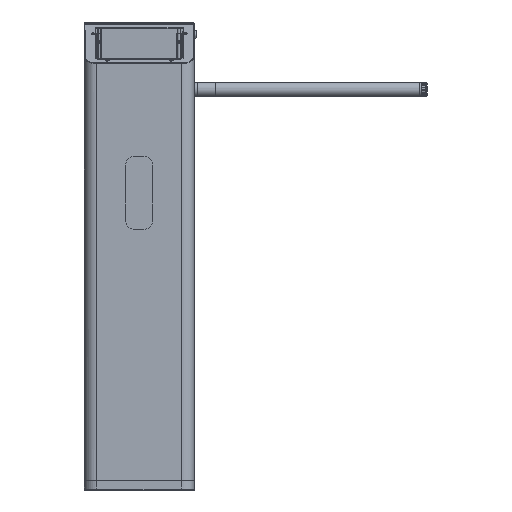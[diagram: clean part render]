
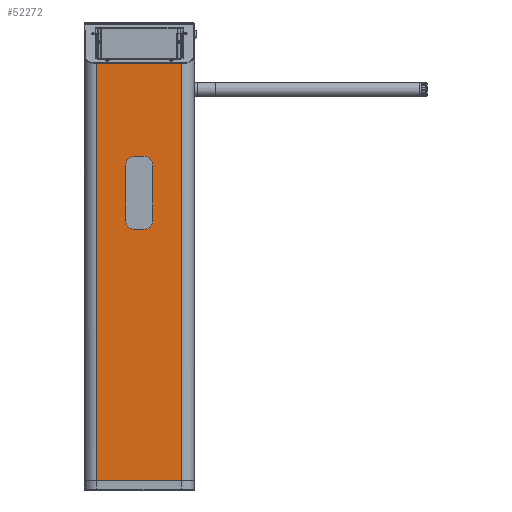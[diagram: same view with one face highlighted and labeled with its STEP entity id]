
A CAD part, left-side view. The second image highlights one B-rep face of the part: STEP entity #52272.
In plain terms, the highlighted planar face has unit normal (-1, 0, 0).
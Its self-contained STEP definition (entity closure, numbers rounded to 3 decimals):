
#2694=PLANE('',#65163);
#4256=LINE('',#85294,#8028);
#4300=LINE('',#85443,#8072);
#4301=LINE('',#85447,#8073);
#4302=LINE('',#85452,#8074);
#4303=LINE('',#85456,#8075);
#4304=LINE('',#85460,#8076);
#4305=LINE('',#85463,#8077);
#4306=LINE('',#85465,#8078);
#8028=VECTOR('',#70893,1000.);
#8072=VECTOR('',#71027,1000.);
#8073=VECTOR('',#71032,1000.);
#8074=VECTOR('',#71035,1000.);
#8075=VECTOR('',#71038,1000.);
#8076=VECTOR('',#71041,1000.);
#8077=VECTOR('',#71044,1000.);
#8078=VECTOR('',#71045,1000.);
#12254=ORIENTED_EDGE('',*,*,#27422,.F.);
#12255=ORIENTED_EDGE('',*,*,#27423,.F.);
#12256=ORIENTED_EDGE('',*,*,#27424,.F.);
#12257=ORIENTED_EDGE('',*,*,#27425,.F.);
#12258=ORIENTED_EDGE('',*,*,#27426,.F.);
#12259=ORIENTED_EDGE('',*,*,#27427,.F.);
#12260=ORIENTED_EDGE('',*,*,#27428,.F.);
#12261=ORIENTED_EDGE('',*,*,#27429,.F.);
#12262=ORIENTED_EDGE('',*,*,#27430,.F.);
#12263=ORIENTED_EDGE('',*,*,#27431,.T.);
#12264=ORIENTED_EDGE('',*,*,#27420,.T.);
#12265=ORIENTED_EDGE('',*,*,#27343,.T.);
#27343=EDGE_CURVE('',#34968,#34967,#4256,.T.);
#27420=EDGE_CURVE('',#35028,#34968,#4300,.T.);
#27422=EDGE_CURVE('',#35029,#35030,#4301,.T.);
#27423=EDGE_CURVE('',#35031,#35029,#39949,.T.);
#27424=EDGE_CURVE('',#35032,#35031,#4302,.T.);
#27425=EDGE_CURVE('',#35033,#35032,#39950,.T.);
#27426=EDGE_CURVE('',#35034,#35033,#4303,.T.);
#27427=EDGE_CURVE('',#35035,#35034,#39951,.T.);
#27428=EDGE_CURVE('',#35036,#35035,#4304,.T.);
#27429=EDGE_CURVE('',#35030,#35036,#39952,.T.);
#27430=EDGE_CURVE('',#35037,#34967,#4305,.T.);
#27431=EDGE_CURVE('',#35037,#35028,#4306,.T.);
#34967=VERTEX_POINT('',#85293);
#34968=VERTEX_POINT('',#85295);
#35028=VERTEX_POINT('',#85444);
#35029=VERTEX_POINT('',#85448);
#35030=VERTEX_POINT('',#85449);
#35031=VERTEX_POINT('',#85451);
#35032=VERTEX_POINT('',#85453);
#35033=VERTEX_POINT('',#85455);
#35034=VERTEX_POINT('',#85457);
#35035=VERTEX_POINT('',#85459);
#35036=VERTEX_POINT('',#85461);
#35037=VERTEX_POINT('',#85464);
#39949=CIRCLE('',#65164,20.);
#39950=CIRCLE('',#65165,20.);
#39951=CIRCLE('',#65166,20.);
#39952=CIRCLE('',#65167,20.);
#42258=EDGE_LOOP('',(#12254,#12255,#12256,#12257,#12258,#12259,#12260,#12261));
#42259=EDGE_LOOP('',(#12262,#12263,#12264,#12265));
#46778=FACE_BOUND('',#42258,.T.);
#46779=FACE_BOUND('',#42259,.T.);
#52272=ADVANCED_FACE('',(#46778,#46779),#2694,.F.);
#65163=AXIS2_PLACEMENT_3D('',#85446,#71030,#71031);
#65164=AXIS2_PLACEMENT_3D('',#85450,#71033,#71034);
#65165=AXIS2_PLACEMENT_3D('',#85454,#71036,#71037);
#65166=AXIS2_PLACEMENT_3D('',#85458,#71039,#71040);
#65167=AXIS2_PLACEMENT_3D('',#85462,#71042,#71043);
#70893=DIRECTION('',(0.,-1.,0.));
#71027=DIRECTION('',(0.,0.,-1.));
#71030=DIRECTION('',(1.,0.,0.));
#71031=DIRECTION('',(0.,1.,0.));
#71032=DIRECTION('',(0.,0.,1.));
#71033=DIRECTION('',(-1.,0.,0.));
#71034=DIRECTION('',(0.,-1.,0.));
#71035=DIRECTION('',(0.,-1.,0.));
#71036=DIRECTION('',(-1.,0.,0.));
#71037=DIRECTION('',(0.,-1.,0.));
#71038=DIRECTION('',(0.,0.,-1.));
#71039=DIRECTION('',(-1.,0.,0.));
#71040=DIRECTION('',(0.,-1.,0.));
#71041=DIRECTION('',(0.,1.,0.));
#71042=DIRECTION('',(-1.,0.,0.));
#71043=DIRECTION('',(0.,1.,0.));
#71044=DIRECTION('',(0.,0.,-1.));
#71045=DIRECTION('',(0.,1.,0.));
#85293=CARTESIAN_POINT('',(-681.,-93.5,20.5));
#85294=CARTESIAN_POINT('',(-681.,-93.5,20.5));
#85295=CARTESIAN_POINT('',(-681.,93.5,20.5));
#85443=CARTESIAN_POINT('',(-681.,93.5,1016.5));
#85444=CARTESIAN_POINT('',(-681.,93.5,933.088));
#85446=CARTESIAN_POINT('',(-681.,-93.5,1016.5));
#85447=CARTESIAN_POINT('',(-681.,-30.,710.5));
#85448=CARTESIAN_POINT('',(-681.,-30.,590.5));
#85449=CARTESIAN_POINT('',(-681.,-30.,710.5));
#85450=CARTESIAN_POINT('',(-681.,-10.,590.5));
#85451=CARTESIAN_POINT('',(-681.,-10.,570.5));
#85452=CARTESIAN_POINT('',(-681.,10.,570.5));
#85453=CARTESIAN_POINT('',(-681.,10.,570.5));
#85454=CARTESIAN_POINT('',(-681.,10.,590.5));
#85455=CARTESIAN_POINT('',(-681.,30.,590.5));
#85456=CARTESIAN_POINT('',(-681.,30.,710.5));
#85457=CARTESIAN_POINT('',(-681.,30.,710.5));
#85458=CARTESIAN_POINT('',(-681.,10.,710.5));
#85459=CARTESIAN_POINT('',(-681.,10.,730.5));
#85460=CARTESIAN_POINT('',(-681.,10.,730.5));
#85461=CARTESIAN_POINT('',(-681.,-10.,730.5));
#85462=CARTESIAN_POINT('',(-681.,-10.,710.5));
#85463=CARTESIAN_POINT('',(-681.,-93.5,1016.5));
#85464=CARTESIAN_POINT('',(-681.,-93.5,933.088));
#85465=CARTESIAN_POINT('',(-681.,-93.5,933.088));
